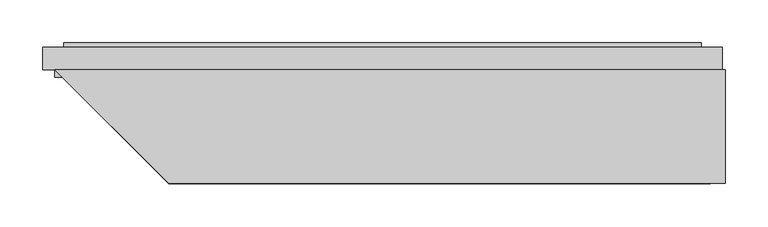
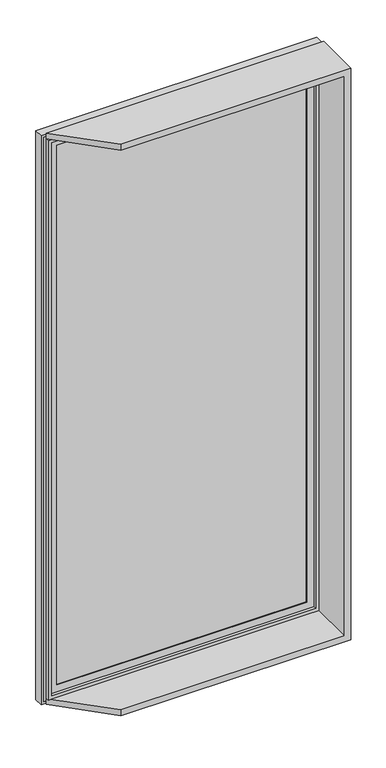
"""IFC4 building model written with IfcOpenShell, lengths in millimetres: plate geometry, SCISSOR PANEL : SCISSOR PANEL."""

from ifc_helpers import new_model, si_unit, frame, origin, place, context, project, spatial, polyline, outline, extrude, faceted_brep, source, transform, mapped, element, save


def plate_7d549ede(model_context):
    return source(origin(), model_context, "Body", "SolidModel", [
        faceted_brep([(398.9048282, 132.5, 1700.0), (398.9048282, 132.5, 0.0), (-381.4048282, 132.5, 0.0), (-381.4048282, 132.5, 17.5), (381.4048282, 132.5, 17.5), (381.4048282, 132.5, 1682.5), (-381.4048282, 132.5, 1682.5), (-381.4048282, 132.5, 1700.0), (381.4048282, 0.0, 17.5), (381.4048282, 0.0, 1682.5), (-248.9048282, 0.0, 0.0), (-248.9048282, 0.0, 17.5), (-248.9048282, 0.0, 1682.5), (-248.9048282, 0.0, 1700.0), (398.9048282, 0.0, 0.0), (398.9048282, 0.0, 1700.0)], [[[0, 1, 2, 3, 4, 5, 6, 7]], [[8, 9, 5, 4]], [[10, 11, 3, 2]], [[12, 13, 7, 6]], [[14, 15, 13, 12, 9, 8, 11, 10]], [[1, 14, 10, 2]], [[15, 14, 1, 0]], [[15, 0, 7, 13]], [[6, 5, 9, 12]], [[4, 3, 11, 8]]]),
        extrude(outline(polyline([(-368.4048282, 160.5), (368.4048282, 160.5), (368.4048282, 135.5), (-368.4048282, 135.5), (-368.4048282, 160.5)])), frame((0.0, 0.0, 30.5), z_axis=(0.0, 0.0, 1.0), x_axis=(1.0, 0.0, 0.0)), (0.0, 0.0, 1.0), 1639.0),
        faceted_brep([(-351.4048282, 135.5, 1652.5), (-351.4048282, 132.5, 1652.5), (-351.4048282, 132.5, 47.5), (-351.4048282, 135.5, 47.5), (-368.4048282, 160.5, 1669.5), (-368.4048282, 135.5, 1669.5), (-368.4048282, 135.5, 30.5), (-368.4048282, 160.5, 30.5), (-351.4048282, 163.5, 1652.5), (-351.4048282, 160.5, 1652.5), (-351.4048282, 160.5, 47.5), (-351.4048282, 163.5, 47.5), (-371.4048282, 132.5, 1672.5), (-371.4048282, 163.5, 1672.5), (-371.4048282, 163.5, 27.5), (-371.4048282, 132.5, 27.5), (351.4048282, 132.5, 47.5), (351.4048282, 135.5, 47.5), (368.4048282, 135.5, 30.5), (368.4048282, 160.5, 30.5), (351.4048282, 160.5, 47.5), (351.4048282, 163.5, 47.5), (371.4048282, 163.5, 27.5), (371.4048282, 132.5, 27.5), (351.4048282, 132.5, 1652.5), (351.4048282, 135.5, 1652.5), (368.4048282, 135.5, 1669.5), (368.4048282, 160.5, 1669.5), (351.4048282, 160.5, 1652.5), (351.4048282, 163.5, 1652.5), (371.4048282, 163.5, 1672.5), (371.4048282, 132.5, 1672.5)], [[[0, 1, 2, 3]], [[4, 5, 6, 7]], [[8, 9, 10, 11]], [[12, 13, 14, 15]], [[3, 2, 16, 17]], [[7, 6, 18, 19]], [[11, 10, 20, 21]], [[15, 14, 22, 23]], [[17, 16, 24, 25]], [[19, 18, 26, 27]], [[21, 20, 28, 29]], [[23, 22, 30, 31]], [[15, 23, 31, 12], [1, 24, 16, 2]], [[25, 24, 1, 0]], [[5, 26, 18, 6], [3, 17, 25, 0]], [[27, 26, 5, 4]], [[7, 19, 27, 4], [9, 28, 20, 10]], [[29, 28, 9, 8]], [[13, 30, 22, 14], [11, 21, 29, 8]], [[31, 30, 13, 12]]]),
        faceted_brep([(-395.4048282, 132.5, 1696.5), (-395.4048282, 158.75, 1696.5), (-395.4048282, 158.75, 3.5), (-395.4048282, 132.5, 3.5), (-388.4048282, 150.0, 1689.5), (-388.4048282, 132.5, 1689.5), (-388.4048282, 132.5, 10.5), (-388.4048282, 150.0, 10.5), (-381.4048282, 123.75, 1682.5), (-381.4048282, 150.0, 1682.5), (-381.4048282, 150.0, 17.5), (-381.4048282, 123.75, 17.5), (-371.4048282, 158.75, 1672.5), (-371.4048282, 123.75, 1672.5), (-371.4048282, 123.75, 27.5), (-371.4048282, 158.75, 27.5), (395.4048282, 158.75, 3.5), (395.4048282, 132.5, 3.5), (388.4048282, 132.5, 10.5), (388.4048282, 150.0, 10.5), (381.4048282, 150.0, 17.5), (381.4048282, 123.75, 17.5), (371.4048282, 123.75, 27.5), (371.4048282, 158.75, 27.5), (395.4048282, 158.75, 1696.5), (395.4048282, 132.5, 1696.5), (388.4048282, 132.5, 1689.5), (388.4048282, 150.0, 1689.5), (381.4048282, 150.0, 1682.5), (381.4048282, 123.75, 1682.5), (371.4048282, 123.75, 1672.5), (371.4048282, 158.75, 1672.5)], [[[0, 1, 2, 3]], [[4, 5, 6, 7]], [[8, 9, 10, 11]], [[12, 13, 14, 15]], [[3, 2, 16, 17]], [[7, 6, 18, 19]], [[11, 10, 20, 21]], [[15, 14, 22, 23]], [[17, 16, 24, 25]], [[19, 18, 26, 27]], [[21, 20, 28, 29]], [[23, 22, 30, 31]], [[25, 24, 1, 0]], [[3, 17, 25, 0], [5, 26, 18, 6]], [[27, 26, 5, 4]], [[7, 19, 27, 4], [9, 28, 20, 10]], [[29, 28, 9, 8]], [[11, 21, 29, 8], [13, 30, 22, 14]], [[31, 30, 13, 12]], [[1, 24, 16, 2], [15, 23, 31, 12]]]),
        extrude(outline(polyline([(1689.5, -388.4048282), (10.5, -388.4048282), (10.5, 388.4048282), (1689.5, 388.4048282), (1689.5, -388.4048282)]), holes=[polyline([(1682.5, -381.4048282), (1682.5, 381.4048282), (17.5, 381.4048282), (17.5, -381.4048282), (1682.5, -381.4048282)])]), frame((0.0, 132.5, 0.0), z_axis=(0.0, 1.0, 0.0), x_axis=(0.0, 0.0, 1.0)), (0.0, 0.0, 1.0), 17.5),
    ])


if __name__ == "__main__":
    model = new_model("IFC4")
    model_context = context("Model", 3, world=origin())
    ifc_project = project(units=[si_unit("LENGTHUNIT", "METRE", prefix="MILLI")], contexts=[model_context])
    site = spatial("IfcSite", under=ifc_project)
    building = spatial("IfcBuilding", under=site)
    placement = place(None, origin())
    plate_shape = plate_7d549ede(model_context)
    element("IfcPlate", 1, ObjectType="SCISSOR PANEL : SCISSOR PANEL", at=placement, inside=building, context=model_context, shape_type="MappedRepresentation", body=[
        mapped(plate_shape, transform((0.0, 0.0, 0.0), x_axis=(1.0, 0.0, 0.0), y_axis=(0.0, 1.0, 0.0), z_axis=(0.0, 0.0, 1.0))),
    ])
    save(model, "model.ifc")
